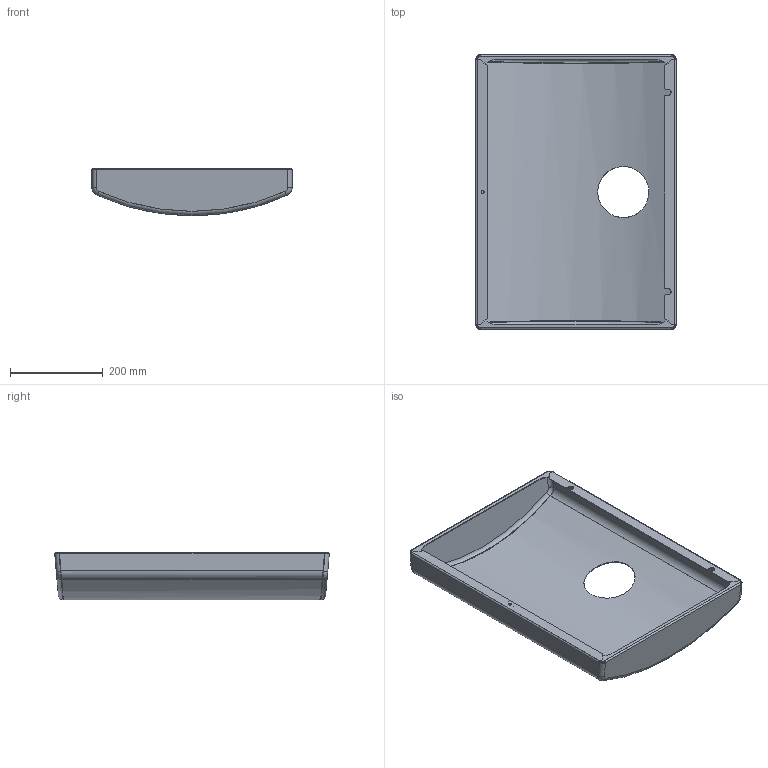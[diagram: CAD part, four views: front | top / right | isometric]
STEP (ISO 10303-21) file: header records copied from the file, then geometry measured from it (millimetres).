
FILE_DESCRIPTION (( 'STEP AP203' ), '1' );
FILE_NAME ('302-98-000 Plašt poklopca KOMPLET.STEP', '2021-12-01T09:38:45', ( '' ), ( '' ), 'SwSTEP 2.0', 'SolidWorks 2016', '' );
FILE_SCHEMA (( 'CONFIG_CONTROL_DESIGN' ));
Length unit declared in the file: millimetre
Products named in the file (4): 302-03-001 Plašt poklopca_HEAT Only; 302-98-000 Plašt poklopca KOMPLET; 312-03-049 Ploèica 20x20 M6; 302-03-002 Stranica plašta poklopca_HEAT Only
Assembly tree (4 placements, depth 2):
  302-98-000 Plašt poklopca KOMPLET
    302-03-001 Plašt poklopca_HEAT Only
    302-03-002 Stranica plašta poklopca_HEAT Only  x2
    312-03-049 Ploèica 20x20 M6
Bounding box: 432.7 x 592.05 x 101.93 mm (x, y, z)
Volume: 810633.9 mm3; surface area: 819899.6 mm2
Topology: 4 solids, 4 shells, 172 faces, 396 edges, 232 vertices
Faces by surface type: plane 84, cylinder 42, cone 20, bspline 14, torus 12
Entity records: 7327 total; most frequent: CARTESIAN_POINT 4123, ORIENTED_EDGE 586, DIRECTION 549, EDGE_CURVE 293, AXIS2_PLACEMENT_3D 186, LINE 177, VECTOR 177, VERTEX_POINT 174
